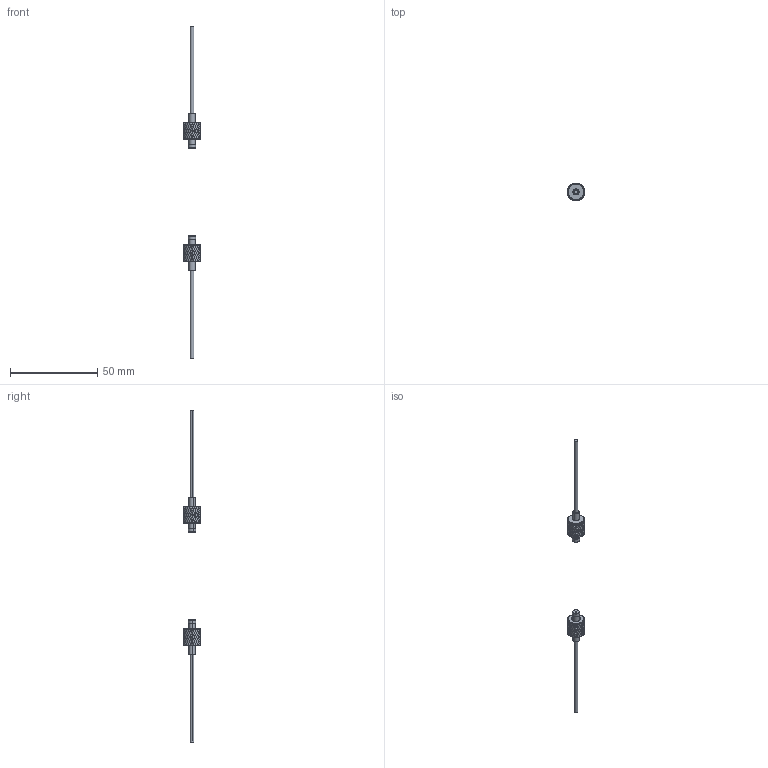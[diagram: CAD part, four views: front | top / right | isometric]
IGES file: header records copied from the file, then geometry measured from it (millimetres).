
Start section: SolidWorks IGES file using analytic representation for surfaces
Global section: file name: E:\00. WORK\堡拳捞滚 OMD\02. 权其捞瘤 档搁\3D\30.FU-VA02\FU-VA02.IGS; native system: SolidWorks 2018; preprocessor: SolidWorks 2018; author: 10116024; date: 201031.155111; units: millimetre
Bounding box: 10 x 10 x 190 mm (x, y, z)
Surface area: 2746.2 mm2 (no closed solid volume)
Topology: 0 solids, 0 shells, 2068 faces, 10634 edges, 10634 vertices
Faces by surface type: bspline 1560, revolution 508
